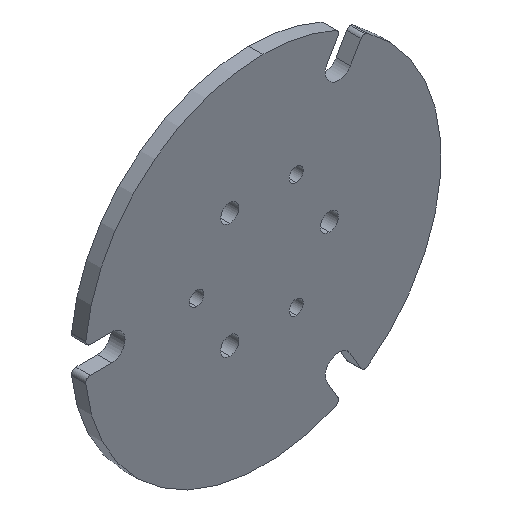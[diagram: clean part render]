
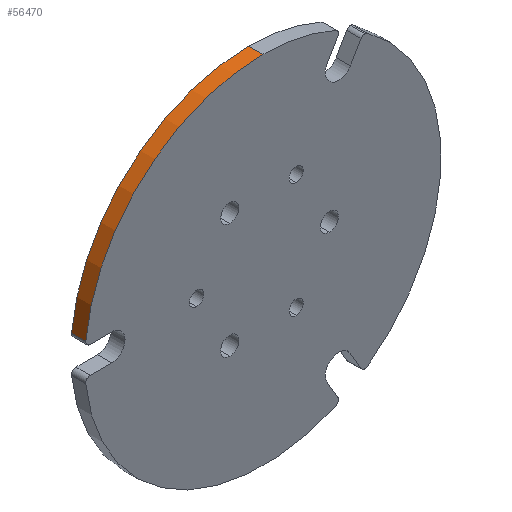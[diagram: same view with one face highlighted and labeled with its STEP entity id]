
A CAD part, isometric view. The second image highlights one B-rep face of the part: STEP entity #56470.
In plain terms, the highlighted cylindrical face has radius 20 mm (diameter 40 mm), a partial arc.
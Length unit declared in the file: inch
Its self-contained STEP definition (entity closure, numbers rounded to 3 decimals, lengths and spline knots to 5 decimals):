
#853 = EDGE_CURVE ( 'NONE', #7283, #10866, #46967, .T. ) ;
#1509 = CARTESIAN_POINT ( 'NONE',  ( 0.7874, -0.06299, -0.7874 ) ) ;
#3867 = ORIENTED_EDGE ( 'NONE', *, *, #853, .F. ) ;
#5331 = CARTESIAN_POINT ( 'NONE',  ( 0.7874, 0., -0.7874 ) ) ;
#5590 = DIRECTION ( 'NONE',  ( 0., 1., 0. ) ) ;
#5894 = CARTESIAN_POINT ( 'NONE',  ( 0.00415, -0.06299, -0.70664 ) ) ;
#6068 = EDGE_CURVE ( 'NONE', #18948, #87408, #81465, .T. ) ;
#7283 = VERTEX_POINT ( 'NONE', #55185 ) ;
#10866 = VERTEX_POINT ( 'NONE', #24163 ) ;
#12233 = DIRECTION ( 'NONE',  ( 0., 0., 1. ) ) ;
#13840 = EDGE_CURVE ( 'NONE', #10866, #87408, #34032, .T. ) ;
#15475 = CYLINDRICAL_SURFACE ( 'NONE', #87387, 0.7874 ) ;
#18948 = VERTEX_POINT ( 'NONE', #51756 ) ;
#24079 = CIRCLE ( 'NONE', #82956, 0.7874 ) ;
#24083 = FACE_OUTER_BOUND ( 'NONE', #63744, .T. ) ;
#24163 = CARTESIAN_POINT ( 'NONE',  ( 0.00415, 0., -0.70664 ) ) ;
#27058 = CARTESIAN_POINT ( 'NONE',  ( 0.7874, 0., 0. ) ) ;
#29347 = DIRECTION ( 'NONE',  ( 0., 0., 1. ) ) ;
#29386 = EDGE_CURVE ( 'NONE', #7283, #18948, #24079, .T. ) ;
#30443 = AXIS2_PLACEMENT_3D ( 'NONE', #5331, #53259, #12233 ) ;
#32218 = DIRECTION ( 'NONE',  ( 0., 1., 0. ) ) ;
#34032 = CIRCLE ( 'NONE', #30443, 0.7874 ) ;
#43363 = ORIENTED_EDGE ( 'NONE', *, *, #6068, .T. ) ;
#46967 = LINE ( 'NONE', #5894, #81163 ) ;
#51756 = CARTESIAN_POINT ( 'NONE',  ( 0.7874, -0.06299, 0. ) ) ;
#52214 = ORIENTED_EDGE ( 'NONE', *, *, #29386, .T. ) ;
#53259 = DIRECTION ( 'NONE',  ( 0., 1., 0. ) ) ;
#55185 = CARTESIAN_POINT ( 'NONE',  ( 0.00415, -0.06299, -0.70664 ) ) ;
#56379 = DIRECTION ( 'NONE',  ( 0., 1., 0. ) ) ;
#56470 = ADVANCED_FACE ( 'NONE', ( #24083 ), #15475, .T. ) ;
#63301 = VECTOR ( 'NONE', #56379, 39.37008 ) ;
#63744 = EDGE_LOOP ( 'NONE', ( #52214, #43363, #86490, #3867 ) ) ;
#73160 = CARTESIAN_POINT ( 'NONE',  ( 0.7874, -0.06299, -0.7874 ) ) ;
#76683 = CARTESIAN_POINT ( 'NONE',  ( 0.7874, -0.06299, 0. ) ) ;
#76912 = DIRECTION ( 'NONE',  ( 0., 1., 0. ) ) ;
#80058 = DIRECTION ( 'NONE',  ( 0., 0., 1. ) ) ;
#81163 = VECTOR ( 'NONE', #5590, 39.37008 ) ;
#81465 = LINE ( 'NONE', #76683, #63301 ) ;
#82956 = AXIS2_PLACEMENT_3D ( 'NONE', #73160, #32218, #80058 ) ;
#86490 = ORIENTED_EDGE ( 'NONE', *, *, #13840, .F. ) ;
#87387 = AXIS2_PLACEMENT_3D ( 'NONE', #1509, #76912, #29347 ) ;
#87408 = VERTEX_POINT ( 'NONE', #27058 ) ;
